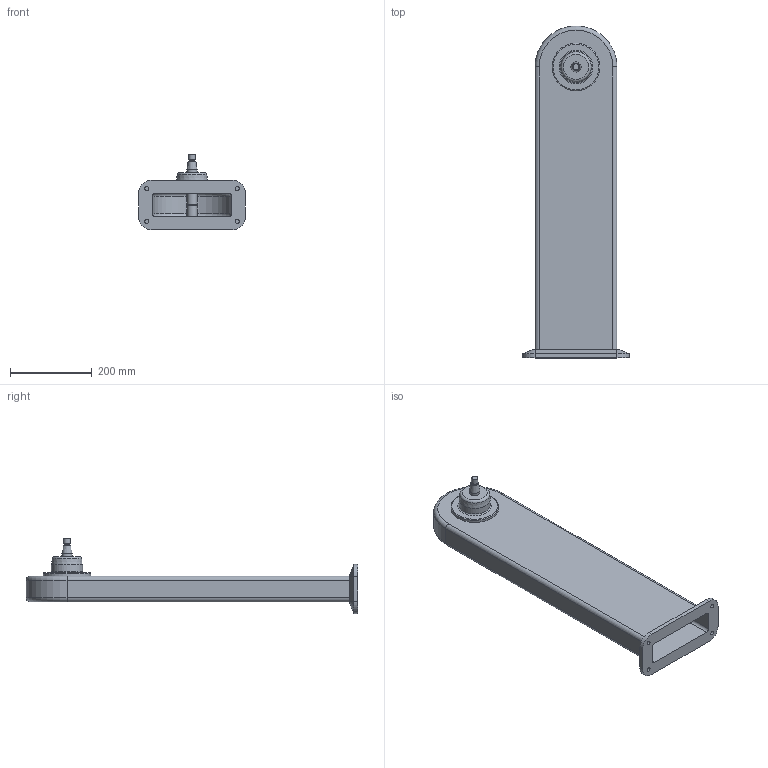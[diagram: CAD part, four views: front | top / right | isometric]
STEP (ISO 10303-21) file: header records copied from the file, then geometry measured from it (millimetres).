
FILE_DESCRIPTION (( 'STEP AP214' ), '1' );
FILE_NAME ('WP800_H710_+00.STEP', '2014-06-26T09:21:23', ( '' ), ( '' ), 'SwSTEP 2.0', 'SolidWorks 2014', '' );
FILE_SCHEMA (( 'AUTOMOTIVE_DESIGN' ));
Length unit declared in the file: millimetre
Products named in the file (1): WP800_H710_+00
Bounding box: 260 x 810 x 183.29 mm (x, y, z)
Volume: 1777677.6 mm3; surface area: 855147.3 mm2
Topology: 1 solids, 1 shells, 68 faces, 141 edges, 85 vertices
Faces by surface type: plane 26, cylinder 25, cone 10, torus 7
Full cylindrical faces by diameter (mm): 10 x4, 14.5 x1, 16 x1, 25 x3, 76 x1, 116 x1
Entity records: 1732 total; most frequent: DIRECTION 324, CARTESIAN_POINT 275, ORIENTED_EDGE 242, AXIS2_PLACEMENT_3D 134, EDGE_CURVE 121, EDGE_LOOP 100, VERTEX_POINT 85, FACE_OUTER_BOUND 82
